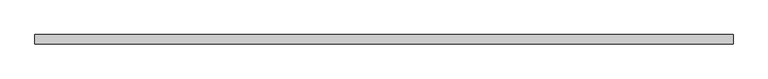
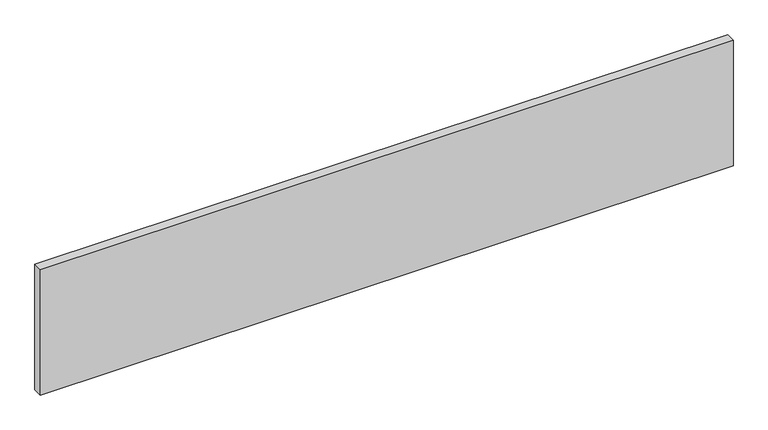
"""IFC4 building model written with IfcOpenShell, lengths in millimetres: plate geometry, 系统嵌板 : 玻璃."""

from ifc_helpers import new_model, si_unit, origin, origin_with_axes, place, context, project, spatial, polyline, outline, extrude, source, transform, mapped, element, save


def plate_74756071(model_context):
    return source(origin(), model_context, "Body", "SweptSolid", [
        extrude(outline(polyline([(915.0, -12.5), (-915.0, -12.5), (-915.0, 12.5), (915.0, 12.5), (915.0, -12.5)])), origin_with_axes(), (0.0, 0.0, 1.0), 350.0),
    ])


if __name__ == "__main__":
    model = new_model("IFC4")
    model_context = context("Model", 3, world=origin())
    ifc_project = project(units=[si_unit("LENGTHUNIT", "METRE", prefix="MILLI")], contexts=[model_context])
    site = spatial("IfcSite", under=ifc_project)
    building = spatial("IfcBuilding", under=site)
    placement = place(None, origin())
    plate_shape = plate_74756071(model_context)
    element("IfcPlate", 1, ObjectType="系统嵌板 : 玻璃", at=placement, inside=building, context=model_context, shape_type="MappedRepresentation", body=[
        mapped(plate_shape, transform((0.0, 0.0, 0.0), x_axis=(1.0, 0.0, 0.0), y_axis=(0.0, 1.0, 0.0), z_axis=(0.0, 0.0, 1.0))),
    ])
    save(model, "model.ifc")
